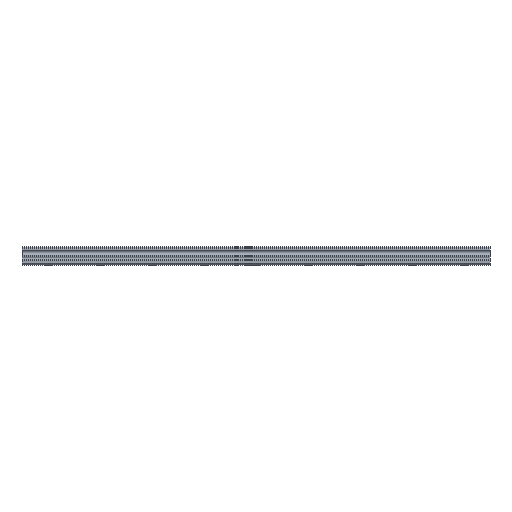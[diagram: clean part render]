
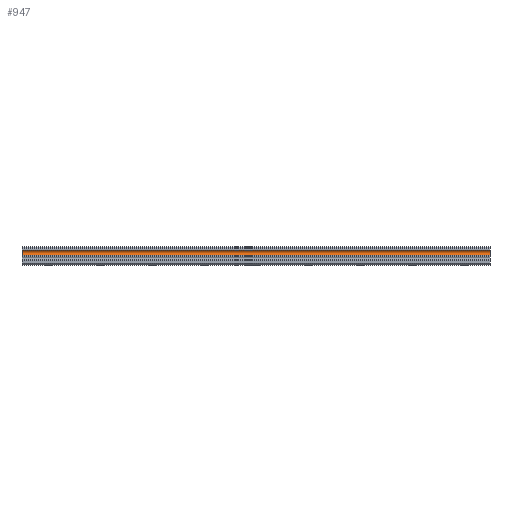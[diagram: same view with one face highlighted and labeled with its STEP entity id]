
A CAD part, top view. The second image highlights one B-rep face of the part: STEP entity #947.
In plain terms, the highlighted cylindrical face has radius 3.1 mm (diameter 6.2 mm), a partial arc.
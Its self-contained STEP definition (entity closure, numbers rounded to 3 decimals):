
#16 = DIRECTION ( 'NONE',  ( -1., 0., 0. ) ) ;
#158 = CARTESIAN_POINT ( 'NONE',  ( 0., 11.515, 10. ) ) ;
#221 = DIRECTION ( 'NONE',  ( -1., 0., 0. ) ) ;
#222 = DIRECTION ( 'NONE',  ( 0., 0., -1. ) ) ;
#293 = VECTOR ( 'NONE', #907, 1000. ) ;
#319 = CARTESIAN_POINT ( 'NONE',  ( 540., 14.6, 10.3 ) ) ;
#621 = CARTESIAN_POINT ( 'NONE',  ( 540., 11.515, 10. ) ) ;
#627 = LINE ( 'NONE', #1853, #2543 ) ;
#765 = DIRECTION ( 'NONE',  ( -1., 0., 0. ) ) ;
#813 = DIRECTION ( 'NONE',  ( 0., 0., 1. ) ) ;
#907 = DIRECTION ( 'NONE',  ( -1., 0., 0. ) ) ;
#938 = CARTESIAN_POINT ( 'NONE',  ( 540., 14.6, 10.3 ) ) ;
#947 = ADVANCED_FACE ( 'NONE', ( #2624 ), #2150, .F. ) ;
#1101 = VERTEX_POINT ( 'NONE', #621 ) ;
#1135 = EDGE_CURVE ( 'NONE', #1310, #1488, #1321, .T. ) ;
#1161 = EDGE_LOOP ( 'NONE', ( #2577, #1508, #1979, #1707 ) ) ;
#1245 = EDGE_CURVE ( 'NONE', #1488, #1520, #2368, .T. ) ;
#1310 = VERTEX_POINT ( 'NONE', #1639 ) ;
#1321 = LINE ( 'NONE', #3032, #293 ) ;
#1430 = DIRECTION ( 'NONE',  ( 0., 0., -1. ) ) ;
#1488 = VERTEX_POINT ( 'NONE', #2097 ) ;
#1508 = ORIENTED_EDGE ( 'NONE', *, *, #2653, .F. ) ;
#1520 = VERTEX_POINT ( 'NONE', #158 ) ;
#1639 = CARTESIAN_POINT ( 'NONE',  ( 540., 17.685, 10. ) ) ;
#1707 = ORIENTED_EDGE ( 'NONE', *, *, #1135, .T. ) ;
#1802 = AXIS2_PLACEMENT_3D ( 'NONE', #2877, #221, #1430 ) ;
#1853 = CARTESIAN_POINT ( 'NONE',  ( 540., 11.515, 10. ) ) ;
#1979 = ORIENTED_EDGE ( 'NONE', *, *, #2970, .F. ) ;
#2055 = AXIS2_PLACEMENT_3D ( 'NONE', #319, #765, #813 ) ;
#2097 = CARTESIAN_POINT ( 'NONE',  ( 0., 17.685, 10. ) ) ;
#2150 = CYLINDRICAL_SURFACE ( 'NONE', #2055, 3.1 ) ;
#2368 = CIRCLE ( 'NONE', #1802, 3.1 ) ;
#2543 = VECTOR ( 'NONE', #2759, 1000. ) ;
#2577 = ORIENTED_EDGE ( 'NONE', *, *, #1245, .T. ) ;
#2624 = FACE_OUTER_BOUND ( 'NONE', #1161, .T. ) ;
#2653 = EDGE_CURVE ( 'NONE', #1101, #1520, #627, .T. ) ;
#2703 = CIRCLE ( 'NONE', #2860, 3.1 ) ;
#2759 = DIRECTION ( 'NONE',  ( -1., 0., 0. ) ) ;
#2860 = AXIS2_PLACEMENT_3D ( 'NONE', #938, #16, #222 ) ;
#2877 = CARTESIAN_POINT ( 'NONE',  ( 0., 14.6, 10.3 ) ) ;
#2970 = EDGE_CURVE ( 'NONE', #1310, #1101, #2703, .T. ) ;
#3032 = CARTESIAN_POINT ( 'NONE',  ( 540., 17.685, 10. ) ) ;
